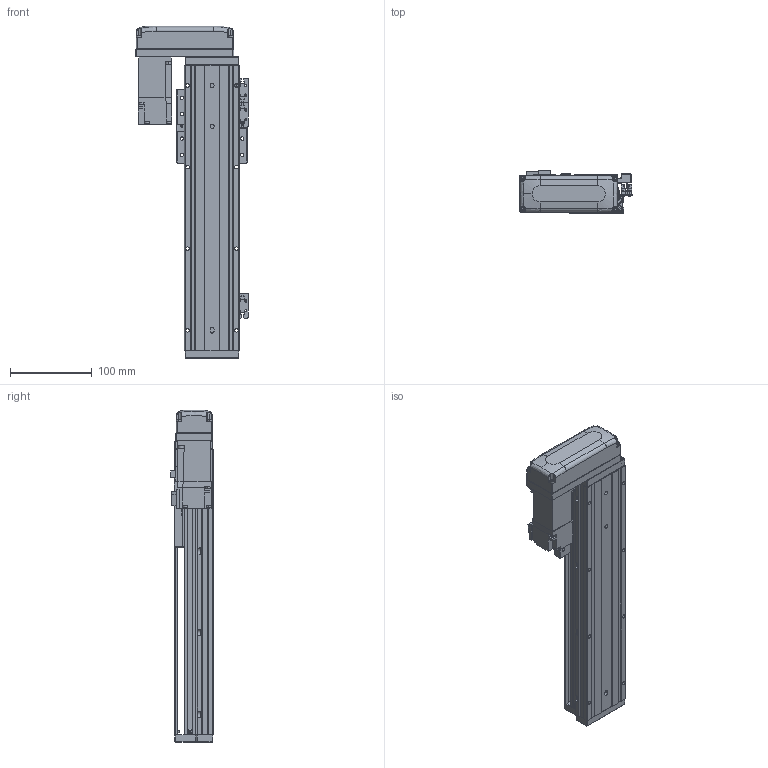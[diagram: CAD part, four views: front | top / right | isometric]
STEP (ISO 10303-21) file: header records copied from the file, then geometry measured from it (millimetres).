
FILE_DESCRIPTION (( 'STEP AP203' ), '1' );
FILE_NAME ('KTHAL60-200-BR-M10-C4L.step', '2022-03-19T08:43:49', ( '微软用户' ), ( '微软中国' ), 'SwSTEP 2.0', 'SolidWorks 2020', '' );
FILE_SCHEMA (( 'CONFIG_CONTROL_DESIGN' ));
Length unit declared in the file: millimetre
Products named in the file (18): KTHA60-004; GBT 70.1-M4×16; GBT 70.1-M3×15; KTHA60-005; GBT77-2000M3-3; KTHAL60-200-BR-M10-C4L; GB¨uT 70.2-M3¡Á5_M3¡Á6; GBT 70.1-M3℅6; GBT 70.3-M3℅6; CTHA60-016; EE_SX911P_R; HG-KR13（三菱）; KTHA60-001_350; CTHA60-017; CTHA60-015-2_CTHA60-015-2; KTHLA60-002; CTHA60-021; CTHA60-033
Assembly tree (51 placements, depth 2):
  KTHAL60-200-BR-M10-C4L
    KTHA60-001_350
    KTHLA60-002
    KTHA60-004
    KTHA60-005
    GB¨uT 70.2-M3¡Á5_M3¡Á6  x5
    GBT 70.3-M3℅6  x4
    EE_SX911P_R  x3
    CTHA60-017  x3
    CTHA60-021  x2
    GBT 70.1-M4×16  x10
    GBT77-2000M3-3  x6
    GBT 70.1-M3℅6  x6
    CTHA60-016
    HG-KR13（三菱）
    CTHA60-015-2_CTHA60-015-2
    CTHA60-033
    GBT 70.1-M3×15  x4
Bounding box: 137.82 x 52.3 x 407 mm (x, y, z)
Volume: 1043365.7 mm3; surface area: 256526 mm2
Topology: 54 solids, 54 shells, 2235 faces, 5275 edges, 3233 vertices
Faces by surface type: plane 1276, cylinder 541, cone 280, torus 98, bspline 26, sphere 14
Entity records: 38055 total; most frequent: CARTESIAN_POINT 7224, DIRECTION 5913, ORIENTED_EDGE 5694, EDGE_CURVE 2847, AXIS2_PLACEMENT_3D 1989, LINE 1935, VECTOR 1935, VERTEX_POINT 1782
